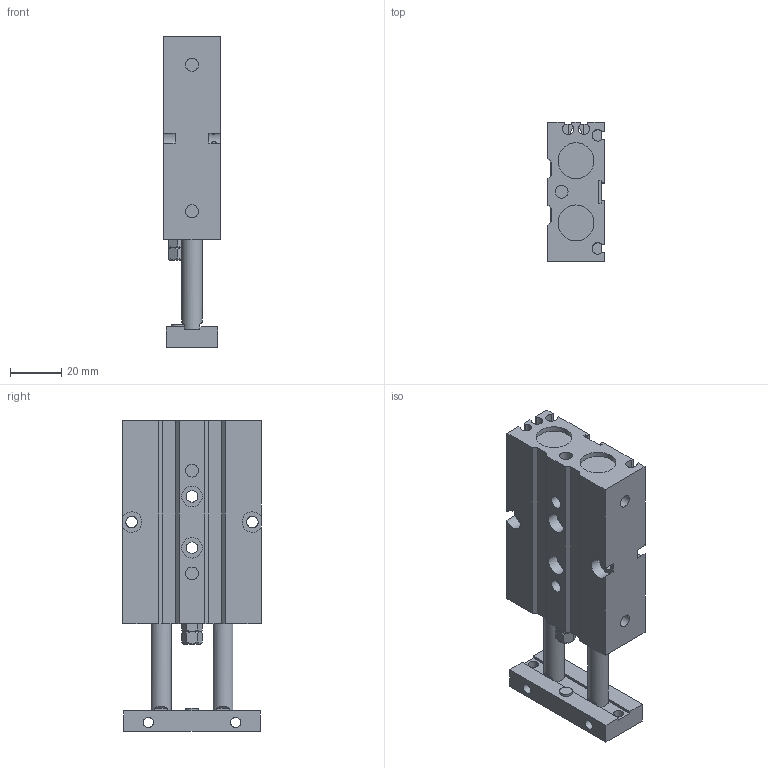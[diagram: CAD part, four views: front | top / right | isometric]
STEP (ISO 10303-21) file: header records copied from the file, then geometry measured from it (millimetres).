
FILE_DESCRIPTION((''),'2;1');
FILE_NAME('I:\3D電子目錄\氣缸\TD\TD16\TD16\TD16x25.stp','2007-08-06T09:39:42',('Administrator'),(''),'Autodesk Inventor 2008','Autodesk Inventor 2008','');
FILE_SCHEMA(('AUTOMOTIVE_DESIGN { 1 0 10303 214 1 1 1 1 }'));
Length unit declared in the file: millimetre
Products named in the file (1): TD16X25
Bounding box: 22 x 54 x 121 mm (x, y, z)
Volume: 92735.6 mm3; surface area: 26115.2 mm2
Topology: 1 solids, 3 shells, 179 faces, 465 edges, 304 vertices
Faces by surface type: plane 116, cylinder 42, bspline 12, cone 7, torus 2
Full cylindrical faces by diameter (mm): 4 x4, 4.5 x4, 5 x8, 6 x2, 7 x2, 8 x4, 14 x4
Entity records: 5819 total; most frequent: CARTESIAN_POINT 1627, ORIENTED_EDGE 824, DIRECTION 820, EDGE_CURVE 412, VERTEX_POINT 292, AXIS2_PLACEMENT_3D 274, VECTOR 272, LINE 272
